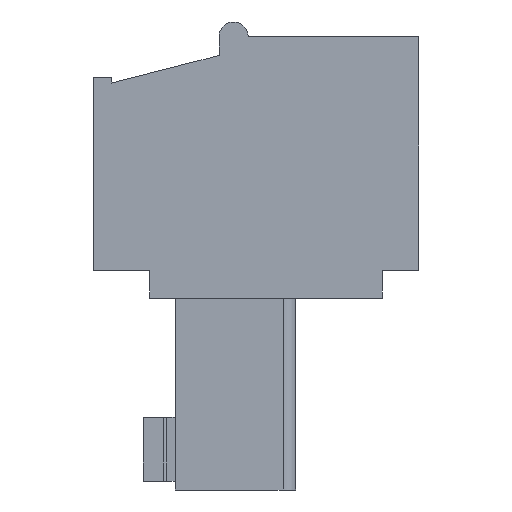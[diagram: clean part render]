
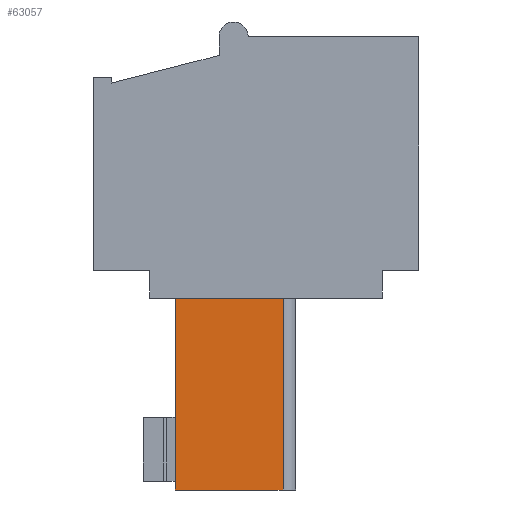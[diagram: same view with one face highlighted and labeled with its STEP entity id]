
A CAD part, left-side view. The second image highlights one B-rep face of the part: STEP entity #63057.
In plain terms, the highlighted planar face has unit normal (-1, 0, 0).
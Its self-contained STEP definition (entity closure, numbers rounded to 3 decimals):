
#329 = PLANE('',#330);
#330 = AXIS2_PLACEMENT_3D('',#331,#332,#333);
#331 = CARTESIAN_POINT('',(0.,-6.37,-9.));
#332 = DIRECTION('',(0.,0.,-1.));
#333 = DIRECTION('',(0.,1.,0.));
#43553 = VERTEX_POINT('',#43554);
#43554 = CARTESIAN_POINT('',(-45.63,-1.7,-9.));
#43569 = CYLINDRICAL_SURFACE('',#43570,0.44);
#43570 = AXIS2_PLACEMENT_3D('',#43571,#43572,#43573);
#43571 = CARTESIAN_POINT('',(-45.19,-1.7,-9.));
#43572 = DIRECTION('',(0.,0.,-1.));
#43573 = DIRECTION('',(1.,0.,0.));
#43581 = EDGE_CURVE('',#43553,#43582,#43584,.T.);
#43582 = VERTEX_POINT('',#43583);
#43583 = CARTESIAN_POINT('',(-45.63,2.01,-9.));
#43584 = SURFACE_CURVE('',#43585,(#43589,#43596),.PCURVE_S1.);
#43585 = LINE('',#43586,#43587);
#43586 = CARTESIAN_POINT('',(-45.63,-1.7,-9.));
#43587 = VECTOR('',#43588,1.);
#43588 = DIRECTION('',(0.,1.,0.));
#43589 = PCURVE('',#329,#43590);
#43590 = DEFINITIONAL_REPRESENTATION('',(#43591),#43595);
#43591 = LINE('',#43592,#43593);
#43592 = CARTESIAN_POINT('',(4.67,-45.63));
#43593 = VECTOR('',#43594,1.);
#43594 = DIRECTION('',(1.,0.));
#43595 = ( GEOMETRIC_REPRESENTATION_CONTEXT(2) 
PARAMETRIC_REPRESENTATION_CONTEXT() REPRESENTATION_CONTEXT('2D SPACE',''
  ) );
#43596 = PCURVE('',#43597,#43602);
#43597 = PLANE('',#43598);
#43598 = AXIS2_PLACEMENT_3D('',#43599,#43600,#43601);
#43599 = CARTESIAN_POINT('',(-45.63,-1.7,-9.));
#43600 = DIRECTION('',(-1.,0.,0.));
#43601 = DIRECTION('',(0.,1.,0.));
#43602 = DEFINITIONAL_REPRESENTATION('',(#43603),#43607);
#43603 = LINE('',#43604,#43605);
#43604 = CARTESIAN_POINT('',(0.,0.));
#43605 = VECTOR('',#43606,1.);
#43606 = DIRECTION('',(1.,0.));
#43607 = ( GEOMETRIC_REPRESENTATION_CONTEXT(2) 
PARAMETRIC_REPRESENTATION_CONTEXT() REPRESENTATION_CONTEXT('2D SPACE',''
  ) );
#43623 = PLANE('',#43624);
#43624 = AXIS2_PLACEMENT_3D('',#43625,#43626,#43627);
#43625 = CARTESIAN_POINT('',(-45.63,2.01,-9.));
#43626 = DIRECTION('',(0.,1.,0.));
#43627 = DIRECTION('',(1.,0.,0.));
#62454 = PLANE('',#62455);
#62455 = AXIS2_PLACEMENT_3D('',#62456,#62457,#62458);
#62456 = CARTESIAN_POINT('',(-44.21,0.,-15.6));
#62457 = DIRECTION('',(0.,0.,-1.));
#62458 = DIRECTION('',(1.,0.,0.));
#62522 = VERTEX_POINT('',#62523);
#62523 = CARTESIAN_POINT('',(-45.63,-1.7,-15.6));
#62574 = VERTEX_POINT('',#62575);
#62575 = CARTESIAN_POINT('',(-45.63,2.01,-15.6));
#62596 = EDGE_CURVE('',#62574,#62522,#62597,.T.);
#62597 = SURFACE_CURVE('',#62598,(#62602,#62609),.PCURVE_S1.);
#62598 = LINE('',#62599,#62600);
#62599 = CARTESIAN_POINT('',(-45.63,2.01,-15.6));
#62600 = VECTOR('',#62601,1.);
#62601 = DIRECTION('',(0.,-1.,0.));
#62602 = PCURVE('',#62454,#62603);
#62603 = DEFINITIONAL_REPRESENTATION('',(#62604),#62608);
#62604 = LINE('',#62605,#62606);
#62605 = CARTESIAN_POINT('',(-1.42,-2.01));
#62606 = VECTOR('',#62607,1.);
#62607 = DIRECTION('',(0.,1.));
#62608 = ( GEOMETRIC_REPRESENTATION_CONTEXT(2) 
PARAMETRIC_REPRESENTATION_CONTEXT() REPRESENTATION_CONTEXT('2D SPACE',''
  ) );
#62609 = PCURVE('',#43597,#62610);
#62610 = DEFINITIONAL_REPRESENTATION('',(#62611),#62615);
#62611 = LINE('',#62612,#62613);
#62612 = CARTESIAN_POINT('',(3.71,6.6));
#62613 = VECTOR('',#62614,1.);
#62614 = DIRECTION('',(-1.,0.));
#62615 = ( GEOMETRIC_REPRESENTATION_CONTEXT(2) 
PARAMETRIC_REPRESENTATION_CONTEXT() REPRESENTATION_CONTEXT('2D SPACE',''
  ) );
#63037 = EDGE_CURVE('',#43553,#62522,#63038,.T.);
#63038 = SURFACE_CURVE('',#63039,(#63043,#63050),.PCURVE_S1.);
#63039 = LINE('',#63040,#63041);
#63040 = CARTESIAN_POINT('',(-45.63,-1.7,-9.));
#63041 = VECTOR('',#63042,1.);
#63042 = DIRECTION('',(0.,0.,-1.));
#63043 = PCURVE('',#43569,#63044);
#63044 = DEFINITIONAL_REPRESENTATION('',(#63045),#63049);
#63045 = LINE('',#63046,#63047);
#63046 = CARTESIAN_POINT('',(3.142,0.));
#63047 = VECTOR('',#63048,1.);
#63048 = DIRECTION('',(0.,1.));
#63049 = ( GEOMETRIC_REPRESENTATION_CONTEXT(2) 
PARAMETRIC_REPRESENTATION_CONTEXT() REPRESENTATION_CONTEXT('2D SPACE',''
  ) );
#63050 = PCURVE('',#43597,#63051);
#63051 = DEFINITIONAL_REPRESENTATION('',(#63052),#63056);
#63052 = LINE('',#63053,#63054);
#63053 = CARTESIAN_POINT('',(0.,0.));
#63054 = VECTOR('',#63055,1.);
#63055 = DIRECTION('',(0.,1.));
#63056 = ( GEOMETRIC_REPRESENTATION_CONTEXT(2) 
PARAMETRIC_REPRESENTATION_CONTEXT() REPRESENTATION_CONTEXT('2D SPACE',''
  ) );
#63057 = ADVANCED_FACE('',(#63058),#43597,.T.);
#63058 = FACE_BOUND('',#63059,.F.);
#63059 = EDGE_LOOP('',(#63060,#63061,#63062,#63083));
#63060 = ORIENTED_EDGE('',*,*,#63037,.T.);
#63061 = ORIENTED_EDGE('',*,*,#62596,.F.);
#63062 = ORIENTED_EDGE('',*,*,#63063,.T.);
#63063 = EDGE_CURVE('',#62574,#43582,#63064,.T.);
#63064 = SURFACE_CURVE('',#63065,(#63069,#63076),.PCURVE_S1.);
#63065 = LINE('',#63066,#63067);
#63066 = CARTESIAN_POINT('',(-45.63,2.01,-15.6));
#63067 = VECTOR('',#63068,1.);
#63068 = DIRECTION('',(0.,0.,1.));
#63069 = PCURVE('',#43597,#63070);
#63070 = DEFINITIONAL_REPRESENTATION('',(#63071),#63075);
#63071 = LINE('',#63072,#63073);
#63072 = CARTESIAN_POINT('',(3.71,6.6));
#63073 = VECTOR('',#63074,1.);
#63074 = DIRECTION('',(0.,-1.));
#63075 = ( GEOMETRIC_REPRESENTATION_CONTEXT(2) 
PARAMETRIC_REPRESENTATION_CONTEXT() REPRESENTATION_CONTEXT('2D SPACE',''
  ) );
#63076 = PCURVE('',#43623,#63077);
#63077 = DEFINITIONAL_REPRESENTATION('',(#63078),#63082);
#63078 = LINE('',#63079,#63080);
#63079 = CARTESIAN_POINT('',(0.,6.6));
#63080 = VECTOR('',#63081,1.);
#63081 = DIRECTION('',(0.,-1.));
#63082 = ( GEOMETRIC_REPRESENTATION_CONTEXT(2) 
PARAMETRIC_REPRESENTATION_CONTEXT() REPRESENTATION_CONTEXT('2D SPACE',''
  ) );
#63083 = ORIENTED_EDGE('',*,*,#43581,.F.);
